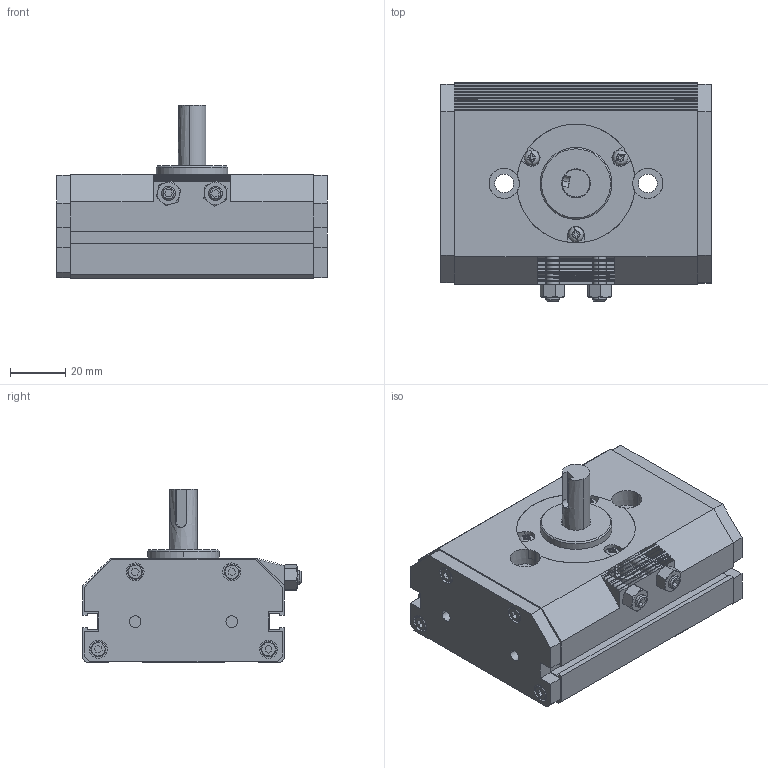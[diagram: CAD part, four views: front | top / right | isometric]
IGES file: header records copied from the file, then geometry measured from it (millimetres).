
Start section: 3D InterOp IGES (v. 2022 1.0.0), Spatial Corp. Copyright (c) 1999-2020.
Global section: file name: ZRB-25A-R2v2.igs; native system: Spatial Corp.; preprocessor: 3D InterOp GENERIC/IGES 3.0; author: Noname; organization: Noname; date: 20241128.095742; units: millimetre
Bounding box: 98 x 79.2 x 63 mm (x, y, z)
Surface area: 55833 mm2 (no closed solid volume)
Topology: 0 solids, 0 shells, 685 faces, 3482 edges, 3456 vertices
Faces by surface type: extrusion 433, revolution 252
